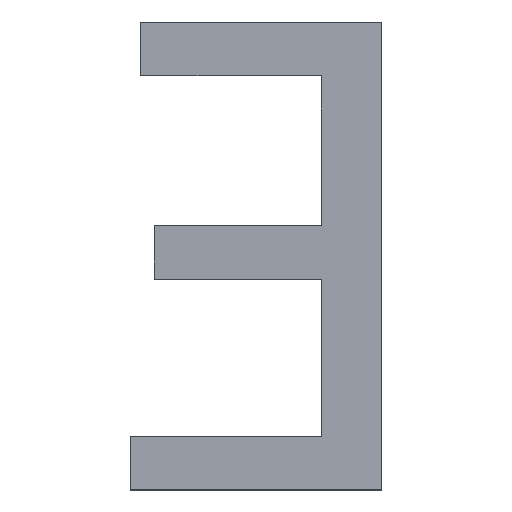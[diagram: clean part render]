
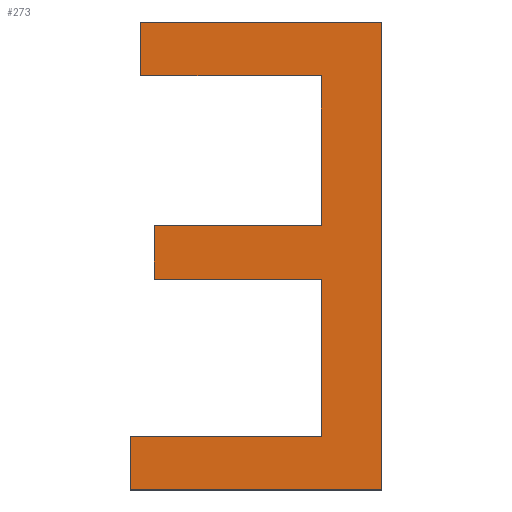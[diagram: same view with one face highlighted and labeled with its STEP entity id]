
A CAD part, top view. The second image highlights one B-rep face of the part: STEP entity #273.
In plain terms, the highlighted planar face has unit normal (0, 0, 1).
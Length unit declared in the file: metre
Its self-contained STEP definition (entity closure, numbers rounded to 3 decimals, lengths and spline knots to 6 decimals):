
#12=ORIENTED_EDGE('',*,*,#84,.F.);
#13=ORIENTED_EDGE('',*,*,#85,.F.);
#14=ORIENTED_EDGE('',*,*,#86,.F.);
#15=ORIENTED_EDGE('',*,*,#87,.F.);
#16=ORIENTED_EDGE('',*,*,#88,.F.);
#17=ORIENTED_EDGE('',*,*,#89,.F.);
#18=ORIENTED_EDGE('',*,*,#90,.F.);
#19=ORIENTED_EDGE('',*,*,#91,.F.);
#20=ORIENTED_EDGE('',*,*,#92,.F.);
#21=ORIENTED_EDGE('',*,*,#93,.F.);
#22=ORIENTED_EDGE('',*,*,#94,.F.);
#23=ORIENTED_EDGE('',*,*,#95,.F.);
#84=EDGE_CURVE('',#120,#121,#144,.T.);
#85=EDGE_CURVE('',#122,#120,#145,.T.);
#86=EDGE_CURVE('',#123,#122,#146,.T.);
#87=EDGE_CURVE('',#124,#123,#147,.T.);
#88=EDGE_CURVE('',#125,#124,#148,.T.);
#89=EDGE_CURVE('',#126,#125,#149,.T.);
#90=EDGE_CURVE('',#127,#126,#150,.T.);
#91=EDGE_CURVE('',#128,#127,#151,.T.);
#92=EDGE_CURVE('',#129,#128,#152,.T.);
#93=EDGE_CURVE('',#130,#129,#153,.T.);
#94=EDGE_CURVE('',#131,#130,#154,.T.);
#95=EDGE_CURVE('',#121,#131,#155,.T.);
#120=VERTEX_POINT('',#467);
#121=VERTEX_POINT('',#468);
#122=VERTEX_POINT('',#470);
#123=VERTEX_POINT('',#472);
#124=VERTEX_POINT('',#474);
#125=VERTEX_POINT('',#476);
#126=VERTEX_POINT('',#478);
#127=VERTEX_POINT('',#480);
#128=VERTEX_POINT('',#482);
#129=VERTEX_POINT('',#484);
#130=VERTEX_POINT('',#486);
#131=VERTEX_POINT('',#488);
#144=LINE('',#466,#180);
#145=LINE('',#469,#181);
#146=LINE('',#471,#182);
#147=LINE('',#473,#183);
#148=LINE('',#475,#184);
#149=LINE('',#477,#185);
#150=LINE('',#479,#186);
#151=LINE('',#481,#187);
#152=LINE('',#483,#188);
#153=LINE('',#485,#189);
#154=LINE('',#487,#190);
#155=LINE('',#489,#191);
#180=VECTOR('',#402,1.);
#181=VECTOR('',#403,1.);
#182=VECTOR('',#404,1.);
#183=VECTOR('',#405,1.);
#184=VECTOR('',#406,1.);
#185=VECTOR('',#407,1.);
#186=VECTOR('',#408,1.);
#187=VECTOR('',#409,1.);
#188=VECTOR('',#410,1.);
#189=VECTOR('',#411,1.);
#190=VECTOR('',#412,1.);
#191=VECTOR('',#413,1.);
#216=EDGE_LOOP('',(#12,#13,#14,#15,#16,#17,#18,#19,#20,#21,#22,#23));
#230=FACE_BOUND('',#216,.T.);
#244=PLANE('',#384);
#273=ADVANCED_FACE('',(#230),#244,.T.);
#384=AXIS2_PLACEMENT_3D('',#465,#400,#401);
#400=DIRECTION('',(0.,0.,1.));
#401=DIRECTION('',(0.,-1.,0.));
#402=DIRECTION('',(0.,1.,0.));
#403=DIRECTION('',(-1.,0.,0.));
#404=DIRECTION('',(0.,-1.,0.));
#405=DIRECTION('',(1.,0.,0.));
#406=DIRECTION('',(0.,1.,0.));
#407=DIRECTION('',(-1.,0.,0.));
#408=DIRECTION('',(0.,1.,0.));
#409=DIRECTION('',(1.,0.,0.));
#410=DIRECTION('',(0.,1.,0.));
#411=DIRECTION('',(-1.,0.,0.));
#412=DIRECTION('',(0.,1.,0.));
#413=DIRECTION('',(1.,0.,0.));
#465=CARTESIAN_POINT('',(-0.09707,-0.011972,0.006263));
#466=CARTESIAN_POINT('',(-0.09814,-0.011612,0.006263));
#467=CARTESIAN_POINT('',(-0.09814,-0.011619,0.006263));
#468=CARTESIAN_POINT('',(-0.09814,-0.011612,0.006263));
#469=CARTESIAN_POINT('',(-0.09814,-0.011619,0.006263));
#470=CARTESIAN_POINT('',(-0.098107,-0.011619,0.006263));
#471=CARTESIAN_POINT('',(-0.098107,-0.011619,0.006263));
#472=CARTESIAN_POINT('',(-0.098107,-0.011558,0.006263));
#473=CARTESIAN_POINT('',(-0.098107,-0.011558,0.006263));
#474=CARTESIAN_POINT('',(-0.098138,-0.011558,0.006263));
#475=CARTESIAN_POINT('',(-0.098138,-0.011558,0.006263));
#476=CARTESIAN_POINT('',(-0.098138,-0.011565,0.006263));
#477=CARTESIAN_POINT('',(-0.098138,-0.011565,0.006263));
#478=CARTESIAN_POINT('',(-0.098115,-0.011565,0.006263));
#479=CARTESIAN_POINT('',(-0.098115,-0.011565,0.006263));
#480=CARTESIAN_POINT('',(-0.098115,-0.011585,0.006263));
#481=CARTESIAN_POINT('',(-0.098115,-0.011585,0.006263));
#482=CARTESIAN_POINT('',(-0.098137,-0.011585,0.006263));
#483=CARTESIAN_POINT('',(-0.098137,-0.011585,0.006263));
#484=CARTESIAN_POINT('',(-0.098137,-0.011592,0.006263));
#485=CARTESIAN_POINT('',(-0.098137,-0.011592,0.006263));
#486=CARTESIAN_POINT('',(-0.098115,-0.011592,0.006263));
#487=CARTESIAN_POINT('',(-0.098115,-0.011592,0.006263));
#488=CARTESIAN_POINT('',(-0.098115,-0.011612,0.006263));
#489=CARTESIAN_POINT('',(-0.098115,-0.011612,0.006263));
